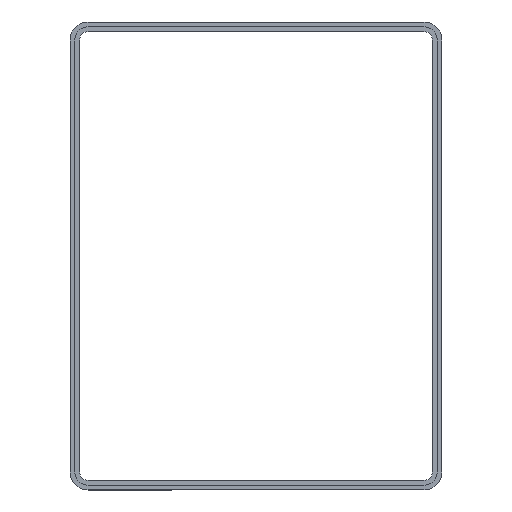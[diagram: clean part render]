
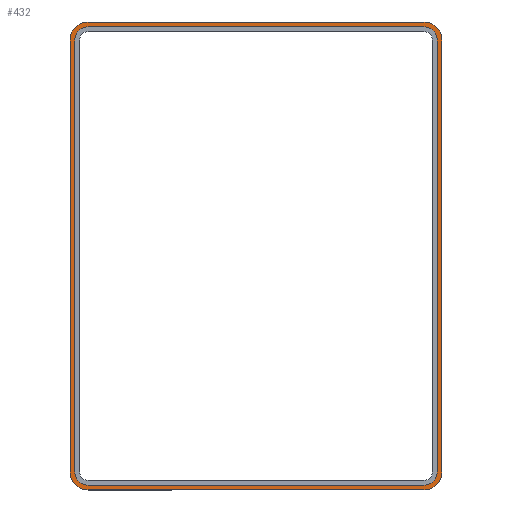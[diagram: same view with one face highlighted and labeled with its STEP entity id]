
A CAD part, top view. The second image highlights one B-rep face of the part: STEP entity #432.
In plain terms, the highlighted planar face has unit normal (0, 0, 1).
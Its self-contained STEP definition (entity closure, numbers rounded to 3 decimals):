
#9 = ORIENTED_EDGE ( 'NONE', *, *, #213, .T. ) ;
#16 = ORIENTED_EDGE ( 'NONE', *, *, #442, .F. ) ;
#28 = EDGE_CURVE ( 'NONE', #866, #661, #224, .T. ) ;
#34 = DIRECTION ( 'NONE',  ( 1., 0., 0. ) ) ;
#40 = CIRCLE ( 'NONE', #349, 3.75 ) ;
#47 = DIRECTION ( 'NONE',  ( -1., 0., 0. ) ) ;
#53 = DIRECTION ( 'NONE',  ( 0., 0., 1. ) ) ;
#69 = VERTEX_POINT ( 'NONE', #81 ) ;
#72 = LINE ( 'NONE', #137, #631 ) ;
#75 = CARTESIAN_POINT ( 'NONE',  ( 35., -45., 2.5 ) ) ;
#81 = CARTESIAN_POINT ( 'NONE',  ( -37.75, -45., 2.5 ) ) ;
#85 = CIRCLE ( 'NONE', #340, 3.75 ) ;
#87 = EDGE_CURVE ( 'NONE', #614, #816, #280, .T. ) ;
#93 = DIRECTION ( 'NONE',  ( 1., 0., 0. ) ) ;
#97 = EDGE_LOOP ( 'NONE', ( #269, #16, #319, #148, #313, #138, #718, #547 ) ) ;
#108 = EDGE_CURVE ( 'NONE', #446, #626, #40, .T. ) ;
#109 = LINE ( 'NONE', #864, #227 ) ;
#117 = EDGE_LOOP ( 'NONE', ( #740, #9, #581, #478, #476, #203, #769, #153 ) ) ;
#119 = DIRECTION ( 'NONE',  ( 1., 0., 0. ) ) ;
#123 = LINE ( 'NONE', #606, #357 ) ;
#129 = LINE ( 'NONE', #602, #716 ) ;
#137 = CARTESIAN_POINT ( 'NONE',  ( -38.75, 45., 2.5 ) ) ;
#138 = ORIENTED_EDGE ( 'NONE', *, *, #87, .F. ) ;
#148 = ORIENTED_EDGE ( 'NONE', *, *, #634, .F. ) ;
#152 = CARTESIAN_POINT ( 'NONE',  ( 35., -45., 2.5 ) ) ;
#153 = ORIENTED_EDGE ( 'NONE', *, *, #276, .T. ) ;
#156 = CARTESIAN_POINT ( 'NONE',  ( -35., -48.75, 2.5 ) ) ;
#179 = CARTESIAN_POINT ( 'NONE',  ( -38.75, -45., 2.5 ) ) ;
#181 = VERTEX_POINT ( 'NONE', #262 ) ;
#191 = DIRECTION ( 'NONE',  ( 0., 1., 0. ) ) ;
#199 = DIRECTION ( 'NONE',  ( 1., 0., 0. ) ) ;
#203 = ORIENTED_EDGE ( 'NONE', *, *, #501, .T. ) ;
#208 = VERTEX_POINT ( 'NONE', #696 ) ;
#213 = EDGE_CURVE ( 'NONE', #545, #237, #330, .T. ) ;
#224 = LINE ( 'NONE', #286, #738 ) ;
#227 = VECTOR ( 'NONE', #515, 1000. ) ;
#228 = CIRCLE ( 'NONE', #457, 3.75 ) ;
#236 = EDGE_CURVE ( 'NONE', #819, #545, #308, .T. ) ;
#237 = VERTEX_POINT ( 'NONE', #555 ) ;
#239 = VECTOR ( 'NONE', #34, 1000. ) ;
#249 = DIRECTION ( 'NONE',  ( 1., 0., 0. ) ) ;
#254 = DIRECTION ( 'NONE',  ( 0., 0., 1. ) ) ;
#255 = VERTEX_POINT ( 'NONE', #406 ) ;
#262 = CARTESIAN_POINT ( 'NONE',  ( 37.75, 45., 2.5 ) ) ;
#263 = AXIS2_PLACEMENT_3D ( 'NONE', #471, #623, #284 ) ;
#269 = ORIENTED_EDGE ( 'NONE', *, *, #414, .F. ) ;
#271 = CARTESIAN_POINT ( 'NONE',  ( 35., 48.75, 2.5 ) ) ;
#276 = EDGE_CURVE ( 'NONE', #255, #819, #507, .T. ) ;
#280 = CIRCLE ( 'NONE', #422, 2.75 ) ;
#284 = DIRECTION ( 'NONE',  ( 1., 0., 0. ) ) ;
#286 = CARTESIAN_POINT ( 'NONE',  ( 35., 47.75, 2.5 ) ) ;
#296 = DIRECTION ( 'NONE',  ( 0., 1., 0. ) ) ;
#299 = CARTESIAN_POINT ( 'NONE',  ( 38.75, 45., 2.5 ) ) ;
#308 = CIRCLE ( 'NONE', #263, 3.75 ) ;
#313 = ORIENTED_EDGE ( 'NONE', *, *, #600, .F. ) ;
#316 = CARTESIAN_POINT ( 'NONE',  ( -37.75, 45., 2.5 ) ) ;
#319 = ORIENTED_EDGE ( 'NONE', *, *, #28, .F. ) ;
#330 = LINE ( 'NONE', #608, #711 ) ;
#334 = DIRECTION ( 'NONE',  ( 0., -1., 0. ) ) ;
#339 = CIRCLE ( 'NONE', #731, 2.75 ) ;
#340 = AXIS2_PLACEMENT_3D ( 'NONE', #152, #717, #662 ) ;
#349 = AXIS2_PLACEMENT_3D ( 'NONE', #698, #563, #498 ) ;
#350 = DIRECTION ( 'NONE',  ( 0., 0., 1. ) ) ;
#357 = VECTOR ( 'NONE', #199, 1000. ) ;
#363 = CARTESIAN_POINT ( 'NONE',  ( -35., 47.75, 2.5 ) ) ;
#379 = CARTESIAN_POINT ( 'NONE',  ( -35., 45., 2.5 ) ) ;
#381 = AXIS2_PLACEMENT_3D ( 'NONE', #784, #53, #47 ) ;
#384 = DIRECTION ( 'NONE',  ( 0., 0., 1. ) ) ;
#406 = CARTESIAN_POINT ( 'NONE',  ( 38.75, -45., 2.5 ) ) ;
#411 = DIRECTION ( 'NONE',  ( -1., 0., 0. ) ) ;
#413 = AXIS2_PLACEMENT_3D ( 'NONE', #804, #254, #452 ) ;
#414 = EDGE_CURVE ( 'NONE', #824, #69, #109, .T. ) ;
#418 = DIRECTION ( 'NONE',  ( -1., 0., 0. ) ) ;
#422 = AXIS2_PLACEMENT_3D ( 'NONE', #75, #350, #831 ) ;
#429 = CARTESIAN_POINT ( 'NONE',  ( 35., 45., 2.5 ) ) ;
#432 = ADVANCED_FACE ( 'NONE', ( #871, #590 ), #868, .T. ) ;
#441 = CARTESIAN_POINT ( 'NONE',  ( 35., 47.75, 2.5 ) ) ;
#442 = EDGE_CURVE ( 'NONE', #661, #824, #673, .T. ) ;
#446 = VERTEX_POINT ( 'NONE', #179 ) ;
#452 = DIRECTION ( 'NONE',  ( 1., 0., 0. ) ) ;
#457 = AXIS2_PLACEMENT_3D ( 'NONE', #379, #800, #249 ) ;
#471 = CARTESIAN_POINT ( 'NONE',  ( 35., 45., 2.5 ) ) ;
#476 = ORIENTED_EDGE ( 'NONE', *, *, #108, .T. ) ;
#478 = ORIENTED_EDGE ( 'NONE', *, *, #540, .T. ) ;
#479 = CARTESIAN_POINT ( 'NONE',  ( 35., -48.75, 2.5 ) ) ;
#498 = DIRECTION ( 'NONE',  ( -1., 0., 0. ) ) ;
#501 = EDGE_CURVE ( 'NONE', #626, #552, #123, .T. ) ;
#507 = LINE ( 'NONE', #299, #822 ) ;
#515 = DIRECTION ( 'NONE',  ( 0., -1., 0. ) ) ;
#520 = CARTESIAN_POINT ( 'NONE',  ( -35., 45., 2.5 ) ) ;
#540 = EDGE_CURVE ( 'NONE', #208, #446, #72, .T. ) ;
#545 = VERTEX_POINT ( 'NONE', #271 ) ;
#547 = ORIENTED_EDGE ( 'NONE', *, *, #756, .F. ) ;
#552 = VERTEX_POINT ( 'NONE', #479 ) ;
#555 = CARTESIAN_POINT ( 'NONE',  ( -35., 48.75, 2.5 ) ) ;
#563 = DIRECTION ( 'NONE',  ( 0., 0., 1. ) ) ;
#569 = CARTESIAN_POINT ( 'NONE',  ( -35., -47.75, 2.5 ) ) ;
#581 = ORIENTED_EDGE ( 'NONE', *, *, #790, .T. ) ;
#588 = CARTESIAN_POINT ( 'NONE',  ( 38.75, 45., 2.5 ) ) ;
#590 = FACE_BOUND ( 'NONE', #97, .T. ) ;
#600 = EDGE_CURVE ( 'NONE', #816, #181, #129, .T. ) ;
#602 = CARTESIAN_POINT ( 'NONE',  ( 37.75, 45., 2.5 ) ) ;
#606 = CARTESIAN_POINT ( 'NONE',  ( 35., -48.75, 2.5 ) ) ;
#608 = CARTESIAN_POINT ( 'NONE',  ( 35., 48.75, 2.5 ) ) ;
#613 = AXIS2_PLACEMENT_3D ( 'NONE', #520, #384, #119 ) ;
#614 = VERTEX_POINT ( 'NONE', #675 ) ;
#623 = DIRECTION ( 'NONE',  ( 0., 0., 1. ) ) ;
#626 = VERTEX_POINT ( 'NONE', #156 ) ;
#631 = VECTOR ( 'NONE', #334, 1000. ) ;
#634 = EDGE_CURVE ( 'NONE', #181, #866, #339, .T. ) ;
#644 = CARTESIAN_POINT ( 'NONE',  ( 35., -47.75, 2.5 ) ) ;
#657 = CARTESIAN_POINT ( 'NONE',  ( 37.75, -45., 2.5 ) ) ;
#661 = VERTEX_POINT ( 'NONE', #363 ) ;
#662 = DIRECTION ( 'NONE',  ( 1., 0., 0. ) ) ;
#673 = CIRCLE ( 'NONE', #613, 2.75 ) ;
#675 = CARTESIAN_POINT ( 'NONE',  ( 35., -47.75, 2.5 ) ) ;
#687 = VERTEX_POINT ( 'NONE', #569 ) ;
#693 = DIRECTION ( 'NONE',  ( 0., 0., 1. ) ) ;
#696 = CARTESIAN_POINT ( 'NONE',  ( -38.75, 45., 2.5 ) ) ;
#698 = CARTESIAN_POINT ( 'NONE',  ( -35., -45., 2.5 ) ) ;
#711 = VECTOR ( 'NONE', #411, 1000. ) ;
#712 = LINE ( 'NONE', #644, #239 ) ;
#716 = VECTOR ( 'NONE', #191, 1000. ) ;
#717 = DIRECTION ( 'NONE',  ( 0., 0., 1. ) ) ;
#718 = ORIENTED_EDGE ( 'NONE', *, *, #719, .F. ) ;
#719 = EDGE_CURVE ( 'NONE', #687, #614, #712, .T. ) ;
#731 = AXIS2_PLACEMENT_3D ( 'NONE', #429, #693, #93 ) ;
#738 = VECTOR ( 'NONE', #418, 1000. ) ;
#740 = ORIENTED_EDGE ( 'NONE', *, *, #236, .T. ) ;
#747 = EDGE_CURVE ( 'NONE', #552, #255, #85, .T. ) ;
#756 = EDGE_CURVE ( 'NONE', #69, #687, #814, .T. ) ;
#769 = ORIENTED_EDGE ( 'NONE', *, *, #747, .T. ) ;
#784 = CARTESIAN_POINT ( 'NONE',  ( -35., -45., 2.5 ) ) ;
#790 = EDGE_CURVE ( 'NONE', #237, #208, #228, .T. ) ;
#800 = DIRECTION ( 'NONE',  ( 0., 0., 1. ) ) ;
#804 = CARTESIAN_POINT ( 'NONE',  ( 35., 45., 2.5 ) ) ;
#814 = CIRCLE ( 'NONE', #381, 2.75 ) ;
#816 = VERTEX_POINT ( 'NONE', #657 ) ;
#819 = VERTEX_POINT ( 'NONE', #588 ) ;
#822 = VECTOR ( 'NONE', #296, 1000. ) ;
#824 = VERTEX_POINT ( 'NONE', #316 ) ;
#831 = DIRECTION ( 'NONE',  ( 1., 0., 0. ) ) ;
#864 = CARTESIAN_POINT ( 'NONE',  ( -37.75, 45., 2.5 ) ) ;
#866 = VERTEX_POINT ( 'NONE', #441 ) ;
#868 = PLANE ( 'NONE',  #413 ) ;
#871 = FACE_OUTER_BOUND ( 'NONE', #117, .T. ) ;
